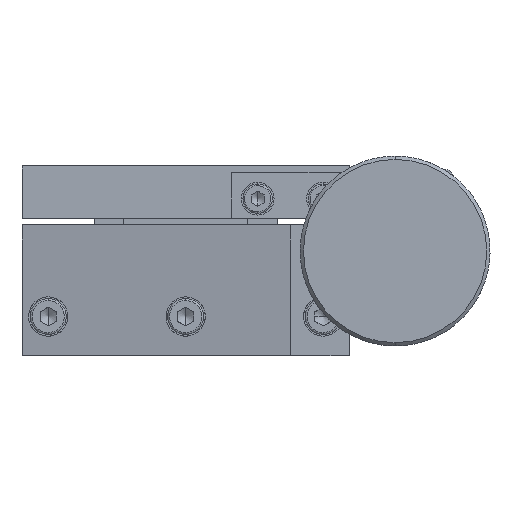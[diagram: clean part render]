
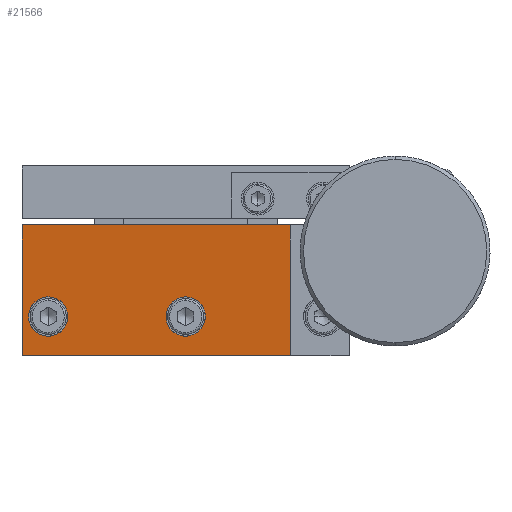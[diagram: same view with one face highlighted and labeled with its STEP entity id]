
A CAD part, front view. The second image highlights one B-rep face of the part: STEP entity #21566.
In plain terms, the highlighted planar face has unit normal (-0.168, -0.986, 0).
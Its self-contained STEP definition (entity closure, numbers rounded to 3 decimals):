
#7319 = VERTEX_POINT ( 'NONE', #44601 ) ;
#7321 = EDGE_CURVE ( 'NONE', #7322, #7319, #44598, .T. ) ;
#7322 = VERTEX_POINT ( 'NONE', #44600 ) ;
#7340 = VERTEX_POINT ( 'NONE', #44608 ) ;
#7342 = EDGE_CURVE ( 'NONE', #7343, #7340, #44606, .T. ) ;
#7343 = VERTEX_POINT ( 'NONE', #44607 ) ;
#20337 = EDGE_CURVE ( 'NONE', #20339, #20420, #67754, .T. ) ;
#20339 = VERTEX_POINT ( 'NONE', #67791 ) ;
#20346 = EDGE_CURVE ( 'NONE', #7340, #7343, #67780, .T. ) ;
#20358 = EDGE_CURVE ( 'NONE', #7319, #7322, #67796, .T. ) ;
#20420 = VERTEX_POINT ( 'NONE', #67909 ) ;
#21128 = VERTEX_POINT ( 'NONE', #68914 ) ;
#21131 = EDGE_CURVE ( 'NONE', #20420, #21128, #68912, .T. ) ;
#21556 = EDGE_CURVE ( 'NONE', #21558, #20339, #69391, .T. ) ;
#21558 = VERTEX_POINT ( 'NONE', #69447 ) ;
#21566 = ADVANCED_FACE ( 'NONE', ( #69435, #69434, #69433 ), #69432, .T. ) ;
#21567 = EDGE_LOOP ( 'NONE', ( #21570, #21611, #21612, #21613 ) ) ;
#21570 = ORIENTED_EDGE ( 'NONE', *, *, #21572, .F. ) ;
#21572 = EDGE_CURVE ( 'NONE', #21558, #21128, #69422, .T. ) ;
#21611 = ORIENTED_EDGE ( 'NONE', *, *, #21556, .T. ) ;
#21612 = ORIENTED_EDGE ( 'NONE', *, *, #20337, .T. ) ;
#21613 = ORIENTED_EDGE ( 'NONE', *, *, #21131, .T. ) ;
#21614 = EDGE_LOOP ( 'NONE', ( #21617, #21620 ) ) ;
#21617 = ORIENTED_EDGE ( 'NONE', *, *, #7321, .T. ) ;
#21620 = ORIENTED_EDGE ( 'NONE', *, *, #20358, .T. ) ;
#21621 = EDGE_LOOP ( 'NONE', ( #21622, #21623 ) ) ;
#21622 = ORIENTED_EDGE ( 'NONE', *, *, #7342, .T. ) ;
#21623 = ORIENTED_EDGE ( 'NONE', *, *, #20346, .T. ) ;
#44594 = CARTESIAN_POINT ( 'NONE',  ( 196.49, 115.42, 12.5 ) ) ;
#44595 = CARTESIAN_POINT ( 'NONE',  ( 196.49, 115.42, 6.5 ) ) ;
#44596 = CARTESIAN_POINT ( 'NONE',  ( 202.49, 114.395, 6.5 ) ) ;
#44597 = CARTESIAN_POINT ( 'NONE',  ( 202.49, 114.395, 12.5 ) ) ;
#44598 =( BOUNDED_CURVE ( )  B_SPLINE_CURVE ( 3, ( #44597, #44596, #44595, #44594 ),
 .UNSPECIFIED., .F., .T. ) 
 B_SPLINE_CURVE_WITH_KNOTS ( ( 4, 4 ),
 ( 0., 3.142 ),
 .UNSPECIFIED. ) 
 CURVE ( )  GEOMETRIC_REPRESENTATION_ITEM ( )  RATIONAL_B_SPLINE_CURVE ( ( 1., 0.333, 0.333, 1. ) ) 
 REPRESENTATION_ITEM ( '' )  );
#44600 = CARTESIAN_POINT ( 'NONE',  ( 202.49, 114.395, 12.5 ) ) ;
#44601 = CARTESIAN_POINT ( 'NONE',  ( 196.49, 115.42, 12.5 ) ) ;
#44606 =( BOUNDED_CURVE ( )  B_SPLINE_CURVE ( 3, ( #44659, #44658, #44657, #44656 ),
 .UNSPECIFIED., .F., .T. ) 
 B_SPLINE_CURVE_WITH_KNOTS ( ( 4, 4 ),
 ( 0., 3.142 ),
 .UNSPECIFIED. ) 
 CURVE ( )  GEOMETRIC_REPRESENTATION_ITEM ( )  RATIONAL_B_SPLINE_CURVE ( ( 1., 0.333, 0.333, 1. ) ) 
 REPRESENTATION_ITEM ( '' )  );
#44607 = CARTESIAN_POINT ( 'NONE',  ( 223.49, 110.81, 12.5 ) ) ;
#44608 = CARTESIAN_POINT ( 'NONE',  ( 217.49, 111.834, 12.5 ) ) ;
#44656 = CARTESIAN_POINT ( 'NONE',  ( 217.49, 111.834, 12.5 ) ) ;
#44657 = CARTESIAN_POINT ( 'NONE',  ( 217.49, 111.834, 6.5 ) ) ;
#44658 = CARTESIAN_POINT ( 'NONE',  ( 223.49, 110.81, 6.5 ) ) ;
#44659 = CARTESIAN_POINT ( 'NONE',  ( 223.49, 110.81, 12.5 ) ) ;
#67754 = LINE ( 'NONE', #67794, #67793 ) ;
#67776 = CARTESIAN_POINT ( 'NONE',  ( 223.49, 110.81, 12.5 ) ) ;
#67777 = CARTESIAN_POINT ( 'NONE',  ( 223.49, 110.81, 18.5 ) ) ;
#67778 = CARTESIAN_POINT ( 'NONE',  ( 217.49, 111.834, 18.5 ) ) ;
#67779 = CARTESIAN_POINT ( 'NONE',  ( 217.49, 111.834, 12.5 ) ) ;
#67780 =( BOUNDED_CURVE ( )  B_SPLINE_CURVE ( 3, ( #67779, #67778, #67777, #67776 ),
 .UNSPECIFIED., .F., .T. ) 
 B_SPLINE_CURVE_WITH_KNOTS ( ( 4, 4 ),
 ( 3.142, 6.283 ),
 .UNSPECIFIED. ) 
 CURVE ( )  GEOMETRIC_REPRESENTATION_ITEM ( )  RATIONAL_B_SPLINE_CURVE ( ( 1., 0.333, 0.333, 1. ) ) 
 REPRESENTATION_ITEM ( '' )  );
#67791 = CARTESIAN_POINT ( 'NONE',  ( 236.49, 108.59, 26.5 ) ) ;
#67792 = DIRECTION ( 'NONE',  ( -0.986, 0.168, 0. ) ) ;
#67793 = VECTOR ( 'NONE', #67792, 1000. ) ;
#67794 = CARTESIAN_POINT ( 'NONE',  ( 236.49, 108.59, 26.5 ) ) ;
#67795 = CARTESIAN_POINT ( 'NONE',  ( 196.49, 115.42, 12.5 ) ) ;
#67796 =( BOUNDED_CURVE ( )  B_SPLINE_CURVE ( 3, ( #67795, #67851, #67850, #67849 ),
 .UNSPECIFIED., .F., .T. ) 
 B_SPLINE_CURVE_WITH_KNOTS ( ( 4, 4 ),
 ( 3.142, 6.283 ),
 .UNSPECIFIED. ) 
 CURVE ( )  GEOMETRIC_REPRESENTATION_ITEM ( )  RATIONAL_B_SPLINE_CURVE ( ( 1., 0.333, 0.333, 1. ) ) 
 REPRESENTATION_ITEM ( '' )  );
#67849 = CARTESIAN_POINT ( 'NONE',  ( 202.49, 114.395, 12.5 ) ) ;
#67850 = CARTESIAN_POINT ( 'NONE',  ( 202.49, 114.395, 18.5 ) ) ;
#67851 = CARTESIAN_POINT ( 'NONE',  ( 196.49, 115.42, 18.5 ) ) ;
#67909 = CARTESIAN_POINT ( 'NONE',  ( 195.49, 115.59, 26.5 ) ) ;
#68909 = DIRECTION ( 'NONE',  ( 0., 0., -1. ) ) ;
#68910 = VECTOR ( 'NONE', #68909, 1000. ) ;
#68911 = CARTESIAN_POINT ( 'NONE',  ( 195.49, 115.59, 6.5 ) ) ;
#68912 = LINE ( 'NONE', #68911, #68910 ) ;
#68914 = CARTESIAN_POINT ( 'NONE',  ( 195.49, 115.59, 6.5 ) ) ;
#69384 = DIRECTION ( 'NONE',  ( 0., 0., 1. ) ) ;
#69385 = CARTESIAN_POINT ( 'NONE',  ( 236.49, 108.59, 6.5 ) ) ;
#69391 = LINE ( 'NONE', #69385, #69448 ) ;
#69419 = DIRECTION ( 'NONE',  ( -0.986, 0.168, 0. ) ) ;
#69420 = VECTOR ( 'NONE', #69419, 1000. ) ;
#69421 = CARTESIAN_POINT ( 'NONE',  ( 236.49, 108.59, 6.5 ) ) ;
#69422 = LINE ( 'NONE', #69421, #69420 ) ;
#69428 = DIRECTION ( 'NONE',  ( 0.986, -0.168, 0. ) ) ;
#69429 = DIRECTION ( 'NONE',  ( -0.168, -0.986, 0. ) ) ;
#69430 = CARTESIAN_POINT ( 'NONE',  ( 236.49, 108.59, 6.5 ) ) ;
#69431 = AXIS2_PLACEMENT_3D ( 'NONE', #69430, #69429, #69428 ) ;
#69432 = PLANE ( 'NONE',  #69431 ) ;
#69433 = FACE_BOUND ( 'NONE', #21621, .T. ) ;
#69434 = FACE_BOUND ( 'NONE', #21614, .T. ) ;
#69435 = FACE_OUTER_BOUND ( 'NONE', #21567, .T. ) ;
#69447 = CARTESIAN_POINT ( 'NONE',  ( 236.49, 108.59, 6.5 ) ) ;
#69448 = VECTOR ( 'NONE', #69384, 1000. ) ;
